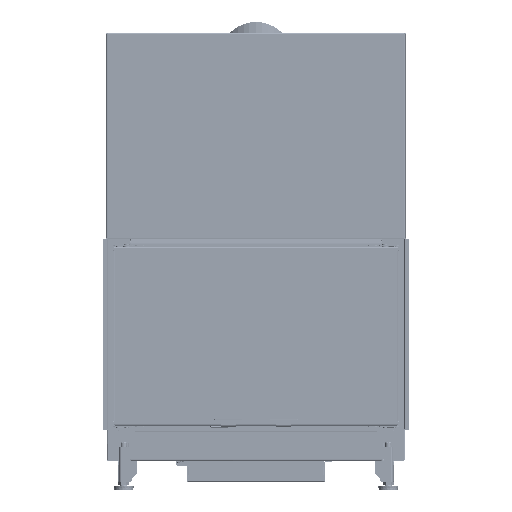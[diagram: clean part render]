
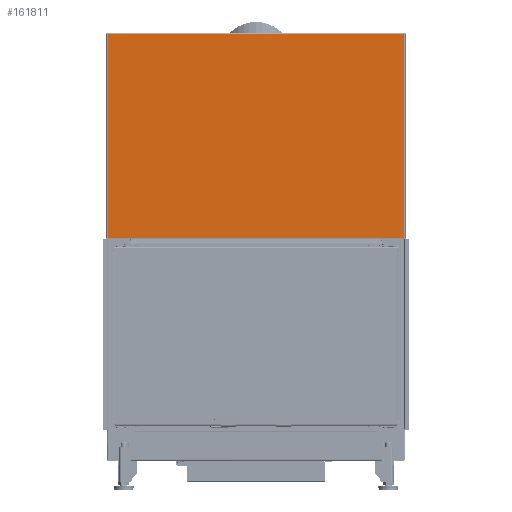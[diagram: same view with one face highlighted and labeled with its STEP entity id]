
A CAD part, front view. The second image highlights one B-rep face of the part: STEP entity #161811.
In plain terms, the highlighted planar face has unit normal (0, -1, 0).
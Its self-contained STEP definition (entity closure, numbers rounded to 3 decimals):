
#7087=FACE_OUTER_BOUND('',#16059,.T.);
#16059=EDGE_LOOP('',(#106804,#106805,#106806,#106807));
#32398=LINE('',#238402,#48413);
#32404=LINE('',#238486,#48419);
#32406=LINE('',#238563,#48421);
#32407=LINE('',#238565,#48422);
#48413=VECTOR('',#189956,10.);
#48419=VECTOR('',#189986,10.);
#48421=VECTOR('',#190000,10.);
#48422=VECTOR('',#190003,10.);
#64383=VERTEX_POINT('',#238361);
#64385=VERTEX_POINT('',#238395);
#64388=VERTEX_POINT('',#238477);
#64389=VERTEX_POINT('',#238485);
#80562=EDGE_CURVE('',#64383,#64385,#32398,.T.);
#80576=EDGE_CURVE('',#64389,#64388,#32404,.T.);
#80585=EDGE_CURVE('',#64385,#64389,#32406,.T.);
#80586=EDGE_CURVE('',#64388,#64383,#32407,.T.);
#106804=ORIENTED_EDGE('',*,*,#80562,.T.);
#106805=ORIENTED_EDGE('',*,*,#80585,.T.);
#106806=ORIENTED_EDGE('',*,*,#80576,.T.);
#106807=ORIENTED_EDGE('',*,*,#80586,.T.);
#152092=PLANE('',#171658);
#161811=ADVANCED_FACE('',(#7087),#152092,.T.);
#171658=AXIS2_PLACEMENT_3D('',#238564,#190001,#190002);
#189956=DIRECTION('',(1.,0.,0.));
#189986=DIRECTION('',(-1.,0.,0.));
#190000=DIRECTION('',(0.,0.,1.));
#190001=DIRECTION('center_axis',(0.,-1.,0.));
#190002=DIRECTION('ref_axis',(1.,0.,0.));
#190003=DIRECTION('',(0.,0.,-1.));
#238361=CARTESIAN_POINT('',(-57.25,-60.,582.25));
#238395=CARTESIAN_POINT('',(717.25,-60.,582.25));
#238402=CARTESIAN_POINT('',(523.625,-60.,582.25));
#238477=CARTESIAN_POINT('',(-57.25,-60.,1114.25));
#238485=CARTESIAN_POINT('',(717.25,-60.,1114.25));
#238486=CARTESIAN_POINT('',(523.625,-60.,1114.25));
#238563=CARTESIAN_POINT('',(717.25,-60.,713.875));
#238564=CARTESIAN_POINT('Origin',(330.,-60.,848.25));
#238565=CARTESIAN_POINT('',(-57.25,-60.,982.625));
